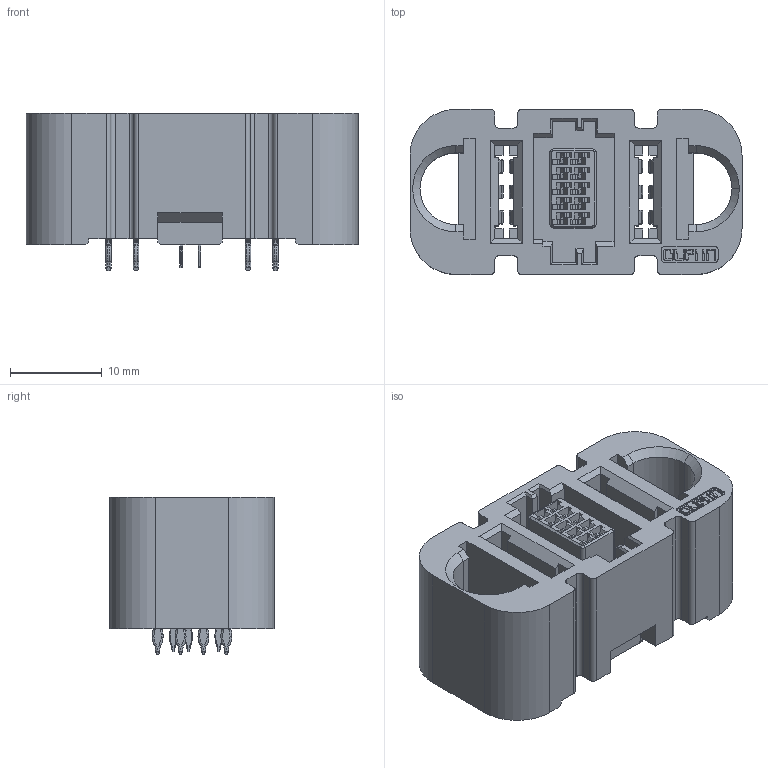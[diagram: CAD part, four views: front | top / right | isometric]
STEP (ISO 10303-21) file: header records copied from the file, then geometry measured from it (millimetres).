
FILE_DESCRIPTION (( 'STEP AP214' ), '1' );
FILE_NAME ('9395-2D01S10A01B71PNG2A.STEP', '2022-02-15T05:55:13', ( '' ), ( '' ), 'SwSTEP 2.0', 'SolidWorks 2011', '' );
FILE_SCHEMA (( 'AUTOMOTIVE_DESIGN' ));
Length unit declared in the file: millimetre
Products named in the file (1): 9395-2D01S10A01B71PNG2A
Bounding box: 36.19 x 18 x 17.21 mm (x, y, z)
Volume: 6042.7 mm3; surface area: 5961.4 mm2
Topology: 1 solids, 1 shells, 2106 faces, 5823 edges, 3760 vertices
Faces by surface type: plane 1276, cylinder 463, torus 168, bspline 156, cone 43
Entity records: 93384 total; most frequent: CARTESIAN_POINT 18570, ORIENTED_EDGE 11646, DIRECTION 9854, EDGE_CURVE 5823, LINE 3878, VECTOR 3878, VERTEX_POINT 3760, AXIS2_PLACEMENT_3D 2988
